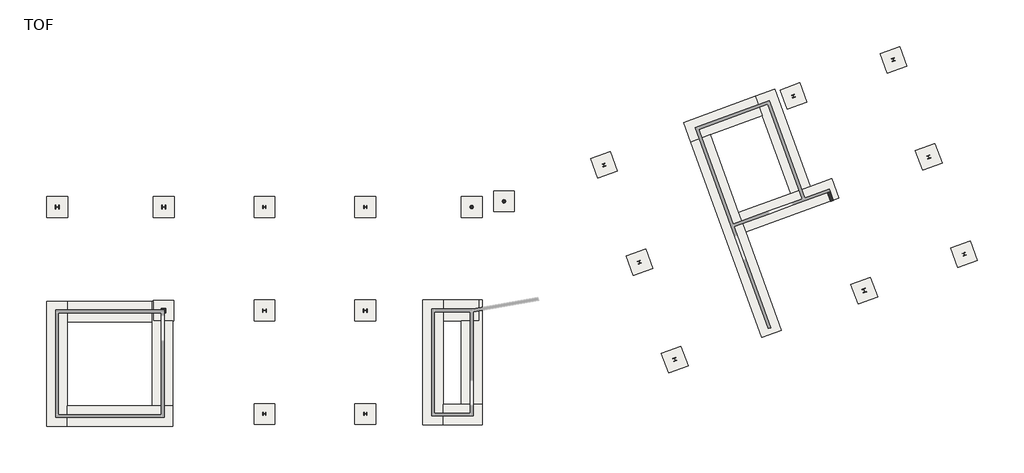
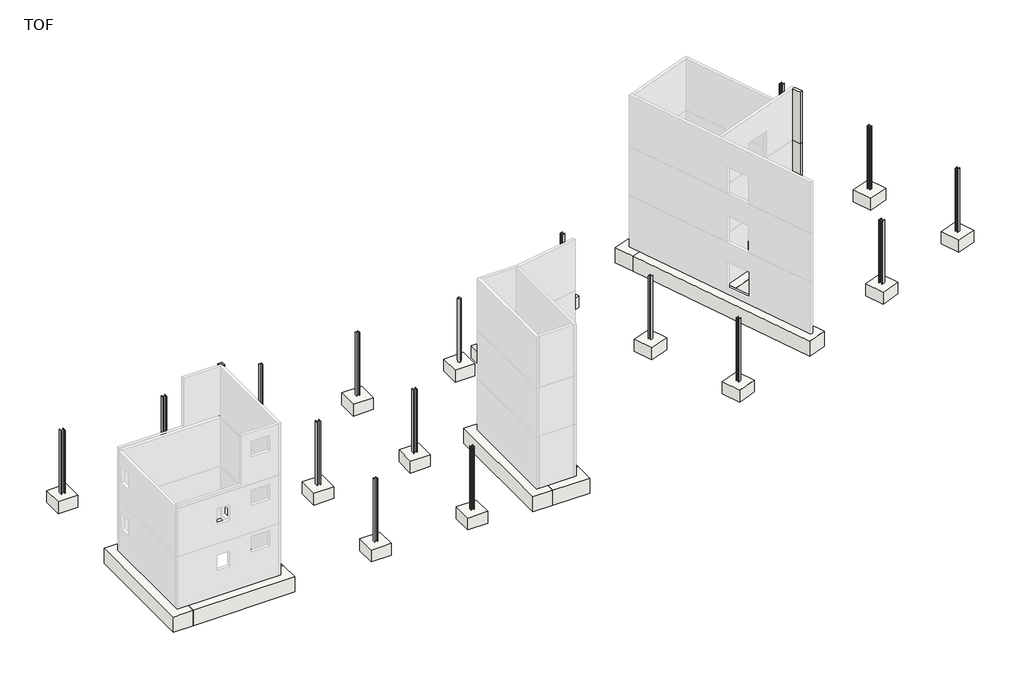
# One storey, part 2 of 2: 19 columns, 19 slabs, 12 footings, 1 wall.
"""IFC4 building model written with IfcOpenShell, lengths in millimetres."""

from ifc_helpers import new_model, si_unit, frame, origin, place, context, project, spatial, polyline, outline, extrude, faceted_brep, transform, mapped, element, save
from components import column_66409fe9, uc_universal_columns_column_75153143, uc_universal_columns_column_fe7b5fb6, slab_28d08e25

model = new_model("IFC4")

# Units and contexts
model_context = context("Model", 3, world=origin())
ifc_project = project(units=[si_unit("LENGTHUNIT", "METRE", prefix="MILLI")], contexts=[model_context])

# Site, building, storey
site = spatial("IfcSite", under=ifc_project)
building = spatial("IfcBuilding", under=site)
storey = spatial("IfcBuildingStorey", under=building, Name="TOF", Elevation=-450.0)

# Columns
placement = place(None, origin())
column_shape = column_66409fe9(model_context)
element("IfcColumn", 1, ObjectType="Circular Hollow Sections-Column : CHS 9 1/2\" x 1/4\"", at=placement, inside=storey, context=model_context, shape_type="MappedRepresentation", body=[
    mapped(column_shape, transform((30362.2000022, 15363.2000005, 0.0), x_axis=(0.0, 1.0, 0.0), y_axis=(-1.0, 0.0, 0.0), z_axis=(0.0, 0.0, 1.0))),
])
element("IfcColumn", 2, ObjectType="Circular Hollow Sections-Column : CHS 9 1/2\" x 1/4\"", at=placement, inside=storey, context=model_context, shape_type="MappedRepresentation", body=[
    mapped(column_shape, transform((32699.714443, 15775.3668642, 0.0), x_axis=(1.0, 0.0, 0.0), y_axis=(0.0, 1.0, 0.0), z_axis=(0.0, 0.0, 1.0))),
])
element("IfcColumn", 3, ObjectType="Concrete-Rectangular-Column1 : 13\" x 13\"", at=placement, inside=storey, context=model_context, shape_type="SweptSolid", body=[
    extrude(outline(polyline([(7887.2000024, 8013.2000005), (8212.2000024, 8013.2000005), (8212.2000024, 7688.2000005), (8087.2000024, 7688.2000005), (8087.2000024, 7888.2000005), (7887.2000024, 7888.2000005), (7887.2000024, 8013.2000005)])), frame((0.0, 0.0, 7795.0), z_axis=(0.0, 0.0, 1.0), x_axis=(1.0, 0.0, 0.0)), (0.0, 0.0, 1.0), 3905.0),
    extrude(outline(polyline([(8212.2000024, 8013.2000005), (8212.2000024, 7688.2000005), (8087.2000024, 7688.2000005), (8087.2000024, 7888.2000005), (7887.2000024, 7888.2000005), (7887.2000024, 8013.2000005), (8212.2000024, 8013.2000005)])), frame((0.0, 0.0, -450.0), z_axis=(0.0, 0.0, 1.0), x_axis=(1.0, 0.0, 0.0)), (0.0, 0.0, 1.0), 8045.0),
])
uc_universal_columns_column_shape = uc_universal_columns_column_75153143(model_context)
element("IfcColumn", 4, ObjectType="UC-Universal Columns-Column : UC 10\" x 10\" x 5 1/2\"", at=placement, inside=storey, context=model_context, shape_type="MappedRepresentation", body=[
    mapped(uc_universal_columns_column_shape, transform((15362.2000023, 7863.2000004, 0.0), x_axis=(0.0, 1.0, 0.0), y_axis=(-1.0, 0.0, 0.0), z_axis=(0.0, 0.0, 1.0))),
])
element("IfcColumn", 5, ObjectType="UC-Universal Columns-Column : UC 10\" x 10\" x 5 1/2\"", at=placement, inside=storey, context=model_context, shape_type="MappedRepresentation", body=[
    mapped(uc_universal_columns_column_shape, transform((22662.2000022, 7863.2000004, 0.0), x_axis=(0.0, 1.0, 0.0), y_axis=(-1.0, 0.0, 0.0), z_axis=(0.0, 0.0, 1.0))),
])
element("IfcColumn", 6, ObjectType="UC-Universal Columns-Column : UC 10\" x 10\" x 5 1/2\"", at=placement, inside=storey, context=model_context, shape_type="MappedRepresentation", body=[
    mapped(uc_universal_columns_column_shape, transform((8062.2000022, 15363.2000005, 0.0), x_axis=(0.0, 1.0, 0.0), y_axis=(-1.0, 0.0, 0.0), z_axis=(0.0, 0.0, 1.0))),
])
element("IfcColumn", 7, ObjectType="UC-Universal Columns-Column : UC 10\" x 10\" x 5 1/2\"", at=placement, inside=storey, context=model_context, shape_type="MappedRepresentation", body=[
    mapped(uc_universal_columns_column_shape, transform((362.2000023, 15363.2000005, 0.0), x_axis=(0.0, 1.0, 0.0), y_axis=(-1.0, 0.0, 0.0), z_axis=(0.0, 0.0, 1.0))),
])
element("IfcColumn", 8, ObjectType="UC-Universal Columns-Column : UC 10\" x 10\" x 5 1/2\"", at=placement, inside=storey, context=model_context, shape_type="MappedRepresentation", body=[
    mapped(uc_universal_columns_column_shape, transform((58785.1620362, 9307.0267477, 0.0), x_axis=(0.9396926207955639, 0.3420201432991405, 0.0), y_axis=(-0.3420201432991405, 0.9396926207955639, 0.0), z_axis=(0.0, 0.0, 1.0))),
])
uc_universal_columns_column_2_shape = uc_universal_columns_column_fe7b5fb6(model_context)
element("IfcColumn", 9, ObjectType="UC-Universal Columns-Column : UC 8\" x 8\" x 3\"", at=placement, inside=storey, context=model_context, shape_type="MappedRepresentation", body=[
    mapped(uc_universal_columns_column_2_shape, transform((22662.2000023, 15363.2000005, 0.0), x_axis=(0.0, 1.0, 0.0), y_axis=(-1.0, 0.0, 0.0), z_axis=(0.0, 0.0, 1.0))),
])
element("IfcColumn", 10, ObjectType="UC-Universal Columns-Column : UC 8\" x 8\" x 3\"", at=placement, inside=storey, context=model_context, shape_type="MappedRepresentation", body=[
    mapped(uc_universal_columns_column_2_shape, transform((15362.2000023, 15363.2000005, 0.0), x_axis=(0.0, 1.0, 0.0), y_axis=(-1.0, 0.0, 0.0), z_axis=(0.0, 0.0, 1.0))),
])
element("IfcColumn", 11, ObjectType="UC-Universal Columns-Column : UC 8\" x 8\" x 3\"", at=placement, inside=storey, context=model_context, shape_type="MappedRepresentation", body=[
    mapped(uc_universal_columns_column_2_shape, transform((15362.2000023, 363.2000005, 0.0), x_axis=(0.0, 1.0, 0.0), y_axis=(-1.0, 0.0, 0.0), z_axis=(0.0, 0.0, 1.0))),
])
element("IfcColumn", 12, ObjectType="UC-Universal Columns-Column : UC 8\" x 8\" x 3\"", at=placement, inside=storey, context=model_context, shape_type="MappedRepresentation", body=[
    mapped(uc_universal_columns_column_2_shape, transform((22662.2000022, 363.2000005, 0.0), x_axis=(0.0, 1.0, 0.0), y_axis=(-1.0, 0.0, 0.0), z_axis=(0.0, 0.0, 1.0))),
])
element("IfcColumn", 13, ObjectType="UC-Universal Columns-Column : UC 8\" x 8\" x 3\"", at=placement, inside=storey, context=model_context, shape_type="MappedRepresentation", body=[
    mapped(uc_universal_columns_column_2_shape, transform((42500.4986978, 11361.2273115, 0.0), x_axis=(0.9396926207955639, 0.3420201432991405, 0.0), y_axis=(-0.3420201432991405, 0.9396926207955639, 0.0), z_axis=(0.0, 0.0, 1.0))),
])
element("IfcColumn", 14, ObjectType="UC-Universal Columns-Column : UC 8\" x 8\" x 3\"", at=placement, inside=storey, context=model_context, shape_type="MappedRepresentation", body=[
    mapped(uc_universal_columns_column_2_shape, transform((39935.3476231, 18408.9219674, 0.0), x_axis=(0.9396926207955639, 0.3420201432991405, 0.0), y_axis=(-0.3420201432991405, 0.9396926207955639, 0.0), z_axis=(0.0, 0.0, 1.0))),
])
element("IfcColumn", 15, ObjectType="UC-Universal Columns-Column : UC 8\" x 8\" x 3\"", at=placement, inside=storey, context=model_context, shape_type="MappedRepresentation", body=[
    mapped(uc_universal_columns_column_2_shape, transform((53654.8598867, 23402.4160596, 0.0), x_axis=(0.9396926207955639, 0.3420201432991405, 0.0), y_axis=(-0.3420201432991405, 0.9396926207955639, 0.0), z_axis=(0.0, 0.0, 1.0))),
])
element("IfcColumn", 16, ObjectType="UC-Universal Columns-Column : UC 8\" x 8\" x 3\"", at=placement, inside=storey, context=model_context, shape_type="MappedRepresentation", body=[
    mapped(uc_universal_columns_column_2_shape, transform((60890.4930669, 26035.971163, 0.0), x_axis=(0.9396926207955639, 0.3420201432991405, 0.0), y_axis=(-0.3420201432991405, 0.9396926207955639, 0.0), z_axis=(0.0, 0.0, 1.0))),
])
element("IfcColumn", 17, ObjectType="UC-Universal Columns-Column : UC 8\" x 8\" x 3\"", at=placement, inside=storey, context=model_context, shape_type="MappedRepresentation", body=[
    mapped(uc_universal_columns_column_2_shape, transform((63455.6441416, 18988.2765071, 0.0), x_axis=(0.9396926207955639, 0.3420201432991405, 0.0), y_axis=(-0.3420201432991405, 0.9396926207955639, 0.0), z_axis=(0.0, 0.0, 1.0))),
])
element("IfcColumn", 18, ObjectType="UC-Universal Columns-Column : UC 8\" x 8\" x 3\"", at=placement, inside=storey, context=model_context, shape_type="MappedRepresentation", body=[
    mapped(uc_universal_columns_column_2_shape, transform((66020.7952164, 11940.5818511, 0.0), x_axis=(0.9396926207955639, 0.3420201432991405, 0.0), y_axis=(-0.3420201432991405, 0.9396926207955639, 0.0), z_axis=(0.0, 0.0, 1.0))),
])
element("IfcColumn", 19, ObjectType="UC-Universal Columns-Column : UC 8\" x 8\" x 3\"", at=placement, inside=storey, context=model_context, shape_type="MappedRepresentation", body=[
    mapped(uc_universal_columns_column_2_shape, transform((45065.6497726, 4313.5326555, 0.0), x_axis=(0.939692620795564, 0.3420201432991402, 0.0), y_axis=(-0.3420201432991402, 0.939692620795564, 0.0), z_axis=(0.0, 0.0, 1.0))),
])

# Footings
element("IfcFooting", 20, ObjectType="Retaining Footing - 12\" x 24\" x 12\"", at=placement, inside=storey, context=model_context, shape_type="Brep", body=[
    faceted_brep([(1082.9999999, -536.9999993, -450.0), (1083.0000002, 963.0000007, -450.0), (1083.0000011, 7038.2000003, -450.0), (1083.0000014, 8538.2000003, -450.0), (-416.9999986, 8538.2000003, -450.0), (-417.0000001, -536.9999993, -450.0), (-417.0000001, -536.9999993, -1650.0), (-416.9999986, 8538.2000003, -1650.0), (1082.9999999, -536.9999993, -1650.0), (1083.0000014, 8538.2000003, -1650.0), (1083.0000011, 7038.2000003, -1650.0), (1083.0000002, 963.0000007, -1650.0)], [[[0, 1, 2, 3, 4, 5]], [[6, 5, 4, 7]], [[8, 6, 7, 9, 10, 11]], [[0, 8, 11, 10, 9, 3, 2, 1]], [[0, 5, 6, 8]], [[4, 3, 9, 7]]]),
])
element("IfcFooting", 21, ObjectType="Retaining Footing - 12\" x 24\" x 12\"", at=placement, inside=storey, context=model_context, shape_type="Brep", body=[
    faceted_brep([(8737.2000024, -536.9999993, -450.0), (8737.2000024, 963.0000007, -450.0), (7237.2000024, 963.0000007, -450.0), (1083.0000002, 963.0000007, -450.0), (1082.9999999, -536.9999993, -450.0), (8737.2000024, -536.9999993, -1650.0), (1082.9999999, -536.9999993, -1650.0), (8737.2000024, 963.0000007, -1650.0), (1083.0000002, 963.0000007, -1650.0), (7237.2000024, 963.0000007, -1650.0)], [[[0, 1, 2, 3, 4]], [[5, 0, 4, 6]], [[7, 5, 6, 8, 9]], [[1, 7, 9, 8, 3, 2]], [[4, 3, 8, 6]], [[1, 0, 5, 7]]]),
])
element("IfcFooting", 22, ObjectType="Retaining Footing - 12\" x 24\" x 12\"", at=placement, inside=storey, context=model_context, shape_type="Brep", body=[
    faceted_brep([(7237.2000024, 963.0000007, -450.0), (8737.2000024, 963.0000007, -450.0), (8737.2000024, 7100.7000005, -450.0), (7299.7000024, 7100.7000005, -450.0), (7299.7000024, 8538.2000005, -450.0), (7237.2000024, 8538.2000005, -450.0), (7237.2000024, 7038.2000005, -450.0), (8737.2000024, 963.0000007, -1650.0), (8737.2000024, 8538.2000005, -1650.0), (8737.2000024, 8538.2000005, -1400.0), (8737.2000024, 7100.7000005, -1400.0), (7237.2000024, 963.0000007, -1650.0), (7237.2000024, 7038.2000005, -1650.0), (7237.2000024, 8538.2000005, -1650.0), (7299.7000024, 8538.2000005, -1400.0), (7299.7000024, 7100.7000005, -1400.0)], [[[0, 1, 2, 3, 4, 5, 6]], [[1, 7, 8, 9, 10, 2]], [[7, 11, 12, 13, 8]], [[11, 0, 6, 5, 13, 12]], [[1, 0, 11, 7]], [[8, 13, 5, 4, 14, 9]], [[14, 15, 10, 9]], [[3, 15, 14, 4]], [[15, 3, 2, 10]]]),
])
element("IfcFooting", 23, ObjectType="Retaining Footing - 12\" x 24\" x 12\"", at=placement, inside=storey, context=model_context, shape_type="SweptSolid", body=[
    extrude(outline(polyline([(1083.0000011, 7038.2000003), (1083.0000014, 8538.2000003), (7237.2000024, 8538.2000005), (7237.2000024, 7038.2000005), (1083.0000011, 7038.2000003)])), frame((0.0, 0.0, -1650.0), z_axis=(0.0, 0.0, 1.0), x_axis=(1.0, 0.0, 0.0)), (0.0, 0.0, 1.0), 1200.0),
])
element("IfcFooting", 24, ObjectType="Retaining Footing - 12\" x 24\" x 12\"", at=placement, inside=storey, context=model_context, shape_type="Brep", body=[
    faceted_brep([(28312.2000028, -429.9999994, -450.0), (28312.2000028, 1070.0000006, -450.0), (28312.2000028, 7113.2000004, -450.0), (28312.2000028, 8613.2000004, -450.0), (26812.2000028, 8613.2000004, -450.0), (26812.2000028, -429.9999994, -450.0), (26812.2000028, -429.9999994, -1650.0), (26812.2000028, 8613.2000004, -1650.0), (28312.2000028, -429.9999994, -1650.0), (28312.2000028, 8613.2000004, -1650.0), (28312.2000028, 7113.2000004, -1650.0), (28312.2000028, 1070.0000006, -1650.0)], [[[0, 1, 2, 3, 4, 5]], [[6, 5, 4, 7]], [[8, 6, 7, 9, 10, 11]], [[0, 8, 11, 10, 9, 3, 2, 1]], [[4, 3, 9, 7]], [[0, 5, 6, 8]]]),
])
element("IfcFooting", 25, ObjectType="Retaining Footing - 12\" x 24\" x 12\"", at=placement, inside=storey, context=model_context, shape_type="Brep", body=[
    faceted_brep([(30912.2000027, 8613.2000004, -1650.0), (30912.2000027, 8613.2000004, -450.0), (30912.2000027, 7113.2000004, -450.0), (30912.2000027, 7113.2000004, -1650.0), (28312.2000028, 8613.2000004, -450.0), (28312.2000028, 7113.2000004, -450.0), (29612.2000024, 7113.2000004, -450.0), (28312.2000028, 8613.2000004, -1650.0), (29612.2000024, 7113.2000004, -1650.0), (28312.2000028, 7113.2000004, -1650.0)], [[[0, 1, 2, 3]], [[2, 1, 4, 5, 6]], [[1, 0, 7, 4]], [[0, 3, 8, 9, 7]], [[3, 2, 6, 5, 9, 8]], [[5, 4, 7, 9]]]),
])
element("IfcFooting", 26, ObjectType="Retaining Footing - 12\" x 24\" x 12\"", at=placement, inside=storey, context=model_context, shape_type="Brep", body=[
    faceted_brep([(31112.2000024, -429.9999994, -450.0), (31112.2000024, 1070.0000006, -450.0), (29612.2000024, 1070.0000006, -450.0), (28312.2000028, 1070.0000006, -450.0), (28312.2000028, -429.9999994, -450.0), (31112.2000024, -429.9999994, -1650.0), (28312.2000028, -429.9999994, -1650.0), (31112.2000024, 1070.0000006, -1650.0), (28312.2000028, 1070.0000006, -1650.0), (29612.2000024, 1070.0000006, -1650.0)], [[[0, 1, 2, 3, 4]], [[5, 0, 4, 6]], [[7, 5, 6, 8, 9]], [[1, 7, 9, 8, 3, 2]], [[4, 3, 8, 6]], [[1, 0, 5, 7]]]),
])
element("IfcFooting", 27, ObjectType="Retaining Footing - 12\" x 24\" x 12\"", at=placement, inside=storey, context=model_context, shape_type="Brep", body=[
    faceted_brep([(50904.0078621, 23385.7650789, -450.0), (51417.0380771, 21976.2261477, -450.0), (53468.3722906, 16340.2317159, -450.0), (54877.9112218, 16853.2619309, -450.0), (52313.5467933, 23898.7952939, -450.0), (52313.5467933, 23898.7952939, -1650.0), (54877.9112218, 16853.2619309, -1650.0), (50904.0078621, 23385.7650789, -1650.0), (53468.3722906, 16340.2317159, -1650.0), (51417.0380771, 21976.2261477, -1650.0)], [[[0, 1, 2, 3, 4]], [[5, 4, 3, 6]], [[7, 5, 6, 8, 9]], [[0, 7, 9, 8, 2, 1]], [[0, 4, 5, 7]], [[3, 2, 8, 6]]]),
])
element("IfcFooting", 28, ObjectType="Retaining Footing - 12\" x 24\" x 12\"", at=placement, inside=storey, context=model_context, shape_type="Brep", body=[
    faceted_brep([(45703.4203062, 21492.9060081, -450.0), (46216.4505212, 20083.3670769, -450.0), (47625.9894524, 20596.3972918, -450.0), (51417.0380771, 21976.2261477, -450.0), (50904.0078621, 23385.7650789, -450.0), (45703.4203062, 21492.9060081, -1650.0), (50904.0078621, 23385.7650789, -1650.0), (46216.4505212, 20083.3670769, -1650.0), (51417.0380771, 21976.2261477, -1650.0), (47625.9894524, 20596.3972918, -1650.0)], [[[0, 1, 2, 3, 4]], [[5, 0, 4, 6]], [[7, 5, 6, 8, 9]], [[1, 7, 9, 8, 3, 2]], [[4, 3, 8, 6]], [[1, 0, 5, 7]]]),
])
element("IfcFooting", 29, ObjectType="Retaining Footing - 12\" x 24\" x 12\"", at=placement, inside=storey, context=model_context, shape_type="Brep", body=[
    faceted_brep([(51377.6712916, 5903.0295521, -450.0), (51377.6712916, 5903.0295521, -1650.0), (52787.2102228, 6416.059767, -1650.0), (52787.2102228, 6416.059767, -450.0), (50190.3538808, 13550.8639288, -450.0), (49677.3236659, 14960.40286, -450.0), (47625.9894524, 20596.3972918, -450.0), (46216.4505212, 20083.3670769, -450.0), (46216.4505212, 20083.3670769, -1650.0), (47625.9894524, 20596.3972918, -1650.0), (49677.3236659, 14960.40286, -1650.0), (50190.3538808, 13550.8639288, -1650.0)], [[[0, 1, 2, 3]], [[0, 3, 4, 5, 6, 7]], [[1, 0, 7, 8]], [[2, 1, 8, 9, 10, 11]], [[3, 2, 11, 10, 9, 6, 5, 4]], [[7, 6, 9, 8]]]),
])
element("IfcFooting", 30, ObjectType="Retaining Footing - 12\" x 24\" x 12\"", at=placement, inside=storey, context=model_context, shape_type="Brep", body=[
    faceted_brep([(56956.1407505, 16013.4089605, -450.0), (56956.1407505, 16013.4089605, -1650.0), (56443.1105356, 17422.9478917, -1650.0), (56443.1105356, 17422.9478917, -450.0), (50190.3538808, 13550.8639288, -450.0), (54877.9112218, 16853.2619309, -450.0), (53468.3722906, 16340.2317159, -450.0), (49677.3236659, 14960.40286, -450.0), (50190.3538808, 13550.8639288, -1650.0), (49677.3236659, 14960.40286, -1650.0), (53468.3722906, 16340.2317159, -1650.0), (54877.9112218, 16853.2619309, -1650.0)], [[[0, 1, 2, 3]], [[4, 0, 3, 5, 6, 7]], [[1, 0, 4, 8]], [[2, 1, 8, 9, 10, 11]], [[3, 2, 11, 10, 9, 7, 6, 5]], [[4, 7, 9, 8]]]),
])
element("IfcFooting", 31, ObjectType="Retaining Footing - 12\" x 24\" x 12\"", at=placement, inside=storey, context=model_context, shape_type="SweptSolid", body=[
    extrude(outline(polyline([(31112.2000024, 8613.2000004), (31112.2000024, 1070.0000006), (29612.2000024, 1070.0000006), (29612.2000024, 7113.2000004), (30912.2000027, 7113.2000004), (30912.2000027, 8613.2000004), (31112.2000024, 8613.2000004)])), frame((0.0, 0.0, -1650.0), z_axis=(0.0, 0.0, 1.0), x_axis=(1.0, 0.0, 0.0)), (0.0, 0.0, 1.0), 1200.0),
])

# Slabs
element("IfcSlab", 32, ObjectType="Footing-Rectangular1 : 60\" x 60\" x 37\"", at=placement, inside=storey, context=model_context, shape_type="Brep", body=[
    faceted_brep([(8799.7000024, 8600.7000005, -450.0), (7299.7000024, 8600.7000005, -450.0), (7299.7000024, 8538.2000005, -450.0), (7299.7000024, 7100.7000005, -450.0), (8737.2000024, 7100.7000005, -450.0), (8799.7000024, 7100.7000005, -450.0), (8799.7000024, 8600.7000005, -1400.0), (8799.7000024, 7100.7000005, -1400.0), (8737.2000024, 7100.7000005, -1400.0), (7299.7000024, 7100.7000005, -1400.0), (7299.7000024, 8538.2000005, -1400.0), (7299.7000024, 8600.7000005, -1400.0)], [[[0, 1, 2, 3, 4, 5]], [[6, 7, 8, 9, 10, 11]], [[1, 0, 6, 11]], [[3, 2, 1, 11, 10, 9]], [[5, 4, 3, 9, 8, 7]], [[0, 5, 7, 6]]]),
])
slab_shape = slab_28d08e25(model_context)
element("IfcSlab", 33, ObjectType="Footing-Rectangular1 : 60\" x 60\" x 37\"", at=placement, inside=storey, context=model_context, shape_type="MappedRepresentation", body=[
    mapped(slab_shape, transform((15362.2000023, 7863.2000004, -450.0), x_axis=(0.0, 1.0, 0.0), y_axis=(-1.0, 0.0, 0.0), z_axis=(0.0, 0.0, 1.0))),
])
element("IfcSlab", 34, ObjectType="Footing-Rectangular1 : 60\" x 60\" x 37\"", at=placement, inside=storey, context=model_context, shape_type="MappedRepresentation", body=[
    mapped(slab_shape, transform((22662.2000022, 7863.2000004, -450.0), x_axis=(0.0, 1.0, 0.0), y_axis=(-1.0, 0.0, 0.0), z_axis=(0.0, 0.0, 1.0))),
])
element("IfcSlab", 35, ObjectType="Footing-Rectangular1 : 60\" x 60\" x 37\"", at=placement, inside=storey, context=model_context, shape_type="MappedRepresentation", body=[
    mapped(slab_shape, transform((22662.2000023, 15363.2000005, -450.0), x_axis=(0.0, 1.0, 0.0), y_axis=(-1.0, 0.0, 0.0), z_axis=(0.0, 0.0, 1.0))),
])
element("IfcSlab", 36, ObjectType="Footing-Rectangular1 : 60\" x 60\" x 37\"", at=placement, inside=storey, context=model_context, shape_type="MappedRepresentation", body=[
    mapped(slab_shape, transform((15362.2000023, 15363.2000005, -450.0), x_axis=(0.0, 1.0, 0.0), y_axis=(-1.0, 0.0, 0.0), z_axis=(0.0, 0.0, 1.0))),
])
element("IfcSlab", 37, ObjectType="Footing-Rectangular1 : 60\" x 60\" x 37\"", at=placement, inside=storey, context=model_context, shape_type="MappedRepresentation", body=[
    mapped(slab_shape, transform((8062.2000022, 15363.2000005, -450.0), x_axis=(0.0, 1.0, 0.0), y_axis=(-1.0, 0.0, 0.0), z_axis=(0.0, 0.0, 1.0))),
])
element("IfcSlab", 38, ObjectType="Footing-Rectangular1 : 60\" x 60\" x 37\"", at=placement, inside=storey, context=model_context, shape_type="MappedRepresentation", body=[
    mapped(slab_shape, transform((362.2000023, 15363.2000005, -450.0), x_axis=(0.0, 1.0, 0.0), y_axis=(-1.0, 0.0, 0.0), z_axis=(0.0, 0.0, 1.0))),
])
element("IfcSlab", 39, ObjectType="Footing-Rectangular1 : 60\" x 60\" x 37\"", at=placement, inside=storey, context=model_context, shape_type="MappedRepresentation", body=[
    mapped(slab_shape, transform((15362.2000023, 363.2000005, -450.0), x_axis=(0.0, 1.0, 0.0), y_axis=(-1.0, 0.0, 0.0), z_axis=(0.0, 0.0, 1.0))),
])
element("IfcSlab", 40, ObjectType="Footing-Rectangular1 : 60\" x 60\" x 37\"", at=placement, inside=storey, context=model_context, shape_type="MappedRepresentation", body=[
    mapped(slab_shape, transform((22662.2000022, 363.2000005, -450.0), x_axis=(0.0, 1.0, 0.0), y_axis=(-1.0, 0.0, 0.0), z_axis=(0.0, 0.0, 1.0))),
])
element("IfcSlab", 41, ObjectType="Footing-Rectangular1 : 60\" x 60\" x 37\"", at=placement, inside=storey, context=model_context, shape_type="MappedRepresentation", body=[
    mapped(slab_shape, transform((42500.4986978, 11361.2273115, -450.0), x_axis=(0.9396926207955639, 0.3420201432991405, 0.0), y_axis=(-0.3420201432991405, 0.9396926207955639, 0.0), z_axis=(0.0, 0.0, 1.0))),
])
element("IfcSlab", 42, ObjectType="Footing-Rectangular1 : 60\" x 60\" x 37\"", at=placement, inside=storey, context=model_context, shape_type="MappedRepresentation", body=[
    mapped(slab_shape, transform((39935.3476231, 18408.9219674, -450.0), x_axis=(0.9396926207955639, 0.3420201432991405, 0.0), y_axis=(-0.3420201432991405, 0.9396926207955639, 0.0), z_axis=(0.0, 0.0, 1.0))),
])
element("IfcSlab", 43, ObjectType="Footing-Rectangular1 : 60\" x 60\" x 37\"", at=placement, inside=storey, context=model_context, shape_type="MappedRepresentation", body=[
    mapped(slab_shape, transform((53654.8598867, 23402.4160596, -450.0), x_axis=(0.9396926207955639, 0.3420201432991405, 0.0), y_axis=(-0.3420201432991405, 0.9396926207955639, 0.0), z_axis=(0.0, 0.0, 1.0))),
])
element("IfcSlab", 44, ObjectType="Footing-Rectangular1 : 60\" x 60\" x 37\"", at=placement, inside=storey, context=model_context, shape_type="MappedRepresentation", body=[
    mapped(slab_shape, transform((60890.4930669, 26035.971163, -450.0), x_axis=(0.9396926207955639, 0.3420201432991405, 0.0), y_axis=(-0.3420201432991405, 0.9396926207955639, 0.0), z_axis=(0.0, 0.0, 1.0))),
])
element("IfcSlab", 45, ObjectType="Footing-Rectangular1 : 60\" x 60\" x 37\"", at=placement, inside=storey, context=model_context, shape_type="MappedRepresentation", body=[
    mapped(slab_shape, transform((63455.6441416, 18988.2765071, -450.0), x_axis=(0.9396926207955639, 0.3420201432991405, 0.0), y_axis=(-0.3420201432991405, 0.9396926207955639, 0.0), z_axis=(0.0, 0.0, 1.0))),
])
element("IfcSlab", 46, ObjectType="Footing-Rectangular1 : 60\" x 60\" x 37\"", at=placement, inside=storey, context=model_context, shape_type="MappedRepresentation", body=[
    mapped(slab_shape, transform((66020.7952164, 11940.5818511, -450.0), x_axis=(0.9396926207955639, 0.3420201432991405, 0.0), y_axis=(-0.3420201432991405, 0.9396926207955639, 0.0), z_axis=(0.0, 0.0, 1.0))),
])
element("IfcSlab", 47, ObjectType="Footing-Rectangular1 : 60\" x 60\" x 37\"", at=placement, inside=storey, context=model_context, shape_type="MappedRepresentation", body=[
    mapped(slab_shape, transform((58785.1620362, 9307.0267477, -450.0), x_axis=(0.9396926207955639, 0.3420201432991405, 0.0), y_axis=(-0.3420201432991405, 0.9396926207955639, 0.0), z_axis=(0.0, 0.0, 1.0))),
])
element("IfcSlab", 48, ObjectType="Footing-Rectangular1 : 60\" x 60\" x 37\"", at=placement, inside=storey, context=model_context, shape_type="MappedRepresentation", body=[
    mapped(slab_shape, transform((45065.6497726, 4313.5326555, -450.0), x_axis=(0.939692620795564, 0.3420201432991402, 0.0), y_axis=(-0.3420201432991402, 0.939692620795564, 0.0), z_axis=(0.0, 0.0, 1.0))),
])
element("IfcSlab", 49, ObjectType="Footing-Rectangular1 : 60\" x 60\" x 37\"", at=placement, inside=storey, context=model_context, shape_type="MappedRepresentation", body=[
    mapped(slab_shape, transform((30362.2000022, 15363.2000005, -450.0), x_axis=(0.0, 1.0, 0.0), y_axis=(-1.0, 0.0, 0.0), z_axis=(0.0, 0.0, 1.0))),
])
element("IfcSlab", 50, ObjectType="Footing-Rectangular1 : 60\" x 60\" x 37\"", at=placement, inside=storey, context=model_context, shape_type="MappedRepresentation", body=[
    mapped(slab_shape, transform((32699.714443, 15775.3668642, -450.0), x_axis=(1.0, 0.0, 0.0), y_axis=(0.0, 1.0, 0.0), z_axis=(0.0, 0.0, 1.0))),
])

# Wall
element("IfcWall", 51, ObjectType="RC WALL 8\"", at=placement, inside=storey, context=model_context, shape_type="SweptSolid", body=[
    extrude(outline(polyline([(56352.1809499, 15772.302015), (56123.0274539, 16401.8960709), (56310.965978, 16470.3000996), (56540.1194741, 15840.7060436), (56352.1809499, 15772.302015)])), frame((0.0, 0.0, 7595.0), z_axis=(0.0, 0.0, 1.0), x_axis=(1.0, 0.0, 0.0)), (0.0, 0.0, 1.0), 4105.0),
    extrude(outline(polyline([(56352.1809499, 15772.302015), (56123.0274539, 16401.8960709), (56310.965978, 16470.3000996), (56540.1194741, 15840.7060436), (56352.1809499, 15772.302015)])), frame((0.0, 0.0, -450.0), z_axis=(0.0, 0.0, 1.0), x_axis=(1.0, 0.0, 0.0)), (0.0, 0.0, 1.0), 4145.0),
    extrude(outline(polyline([(56352.1809499, 15772.302015), (56123.0274539, 16401.8960709), (56310.965978, 16470.3000996), (56540.1194741, 15840.7060436), (56352.1809499, 15772.302015)])), frame((0.0, 0.0, 3695.0), z_axis=(0.0, 0.0, 1.0), x_axis=(1.0, 0.0, 0.0)), (0.0, 0.0, 1.0), 3900.0),
])

save(model, "model.ifc")
